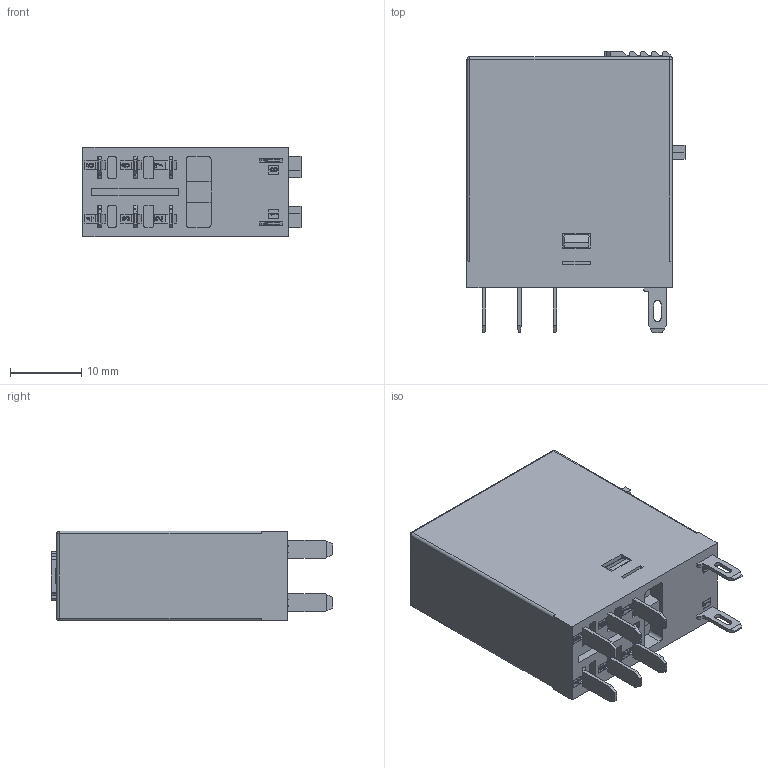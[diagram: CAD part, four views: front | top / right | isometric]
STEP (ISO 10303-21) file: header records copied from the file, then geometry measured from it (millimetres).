
FILE_DESCRIPTION (( 'STEP AP203' ), '1' );
FILE_NAME ('RFT-2C-LT 俋倛.STEP', '2022-12-28T07:27:57', ( '' ), ( '' ), 'SwSTEP 2.0', 'SolidWorks 2018', '' );
FILE_SCHEMA (( 'CONFIG_CONTROL_DESIGN' ));
Length unit declared in the file: millimetre
Products named in the file (1): RFT-2C-LT 俋倛
Bounding box: 30.6 x 39.45 x 12.6 mm (x, y, z)
Volume: 11635.1 mm3; surface area: 4229.5 mm2
Topology: 1 solids, 2 shells, 720 faces, 1992 edges, 1288 vertices
Faces by surface type: plane 509, cylinder 138, bspline 57, sphere 10, cone 4, torus 2
Entity records: 26045 total; most frequent: CARTESIAN_POINT 7764, ORIENTED_EDGE 3964, DIRECTION 3480, EDGE_CURVE 1982, VECTOR 1576, LINE 1576, VERTEX_POINT 1288, AXIS2_PLACEMENT_3D 952
